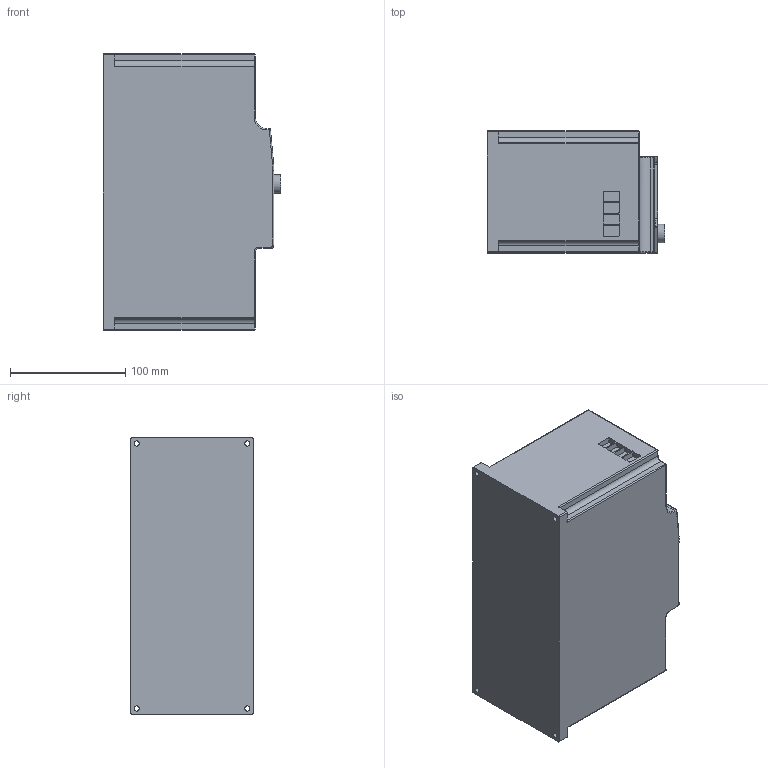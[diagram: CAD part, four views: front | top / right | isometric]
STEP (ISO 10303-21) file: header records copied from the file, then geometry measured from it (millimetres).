
FILE_DESCRIPTION(('STEP AP203'), '1');
FILE_NAME('VCI-G15-4B', '', ('UNSPECIFIED'), ('UNSPECIFIED'), 'C3D Converter', 'C3D Toolkit', '');
FILE_SCHEMA(('CONFIG_CONTROL_DESIGN'));
Length unit declared in the file: millimetre
Bounding box: 154 x 106 x 240 mm (x, y, z)
Volume: 3416263.5 mm3; surface area: 151827.9 mm2
Topology: 1 solids, 1 shells, 226 faces, 586 edges, 364 vertices
Faces by surface type: cylinder 102, plane 100, torus 12, sphere 10, bspline 2
Full cylindrical faces by diameter (mm): 4.5 x4, 16 x1, 22 x1
Entity records: 8847 total; most frequent: CARTESIAN_POINT 1389, DIRECTION 1227, ORIENTED_EDGE 1136, EDGE_CURVE 568, AXIS2_PLACEMENT_3D 442, VERTEX_POINT 364, LINE 343, VECTOR 343
